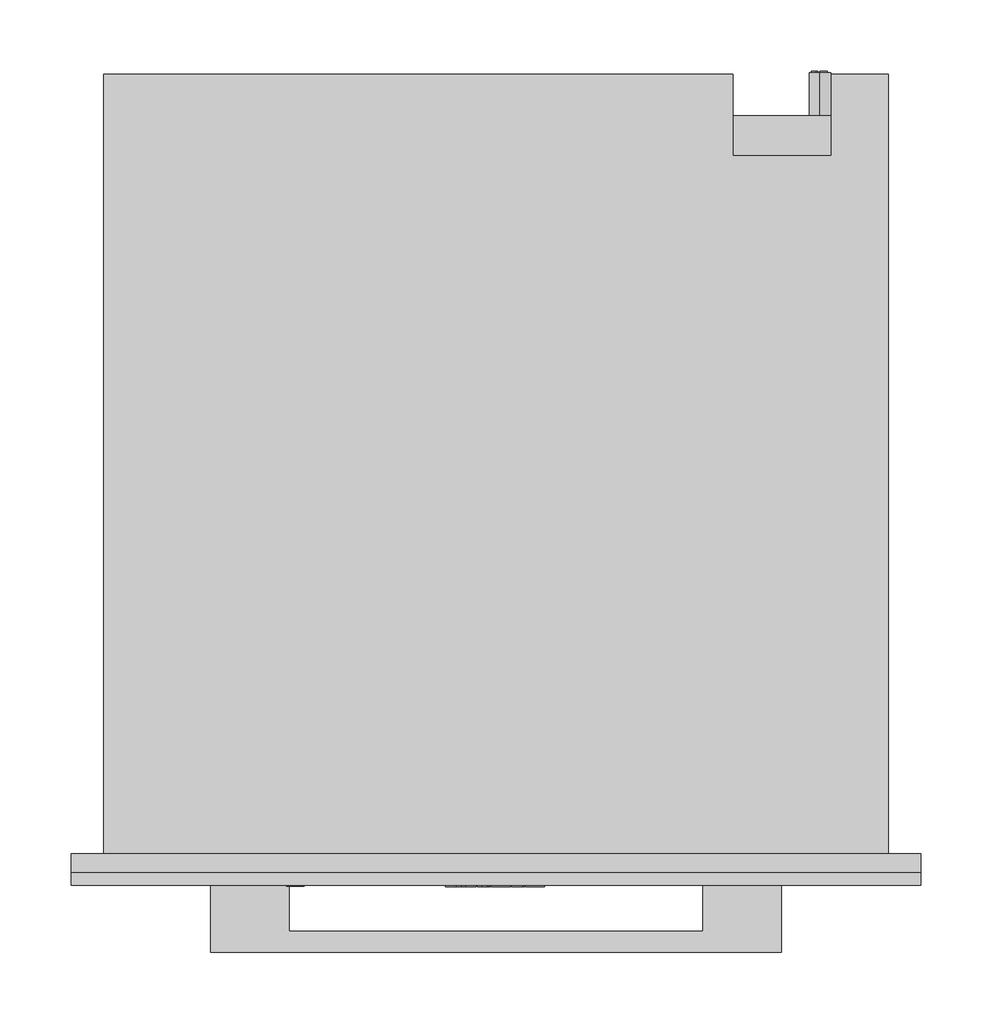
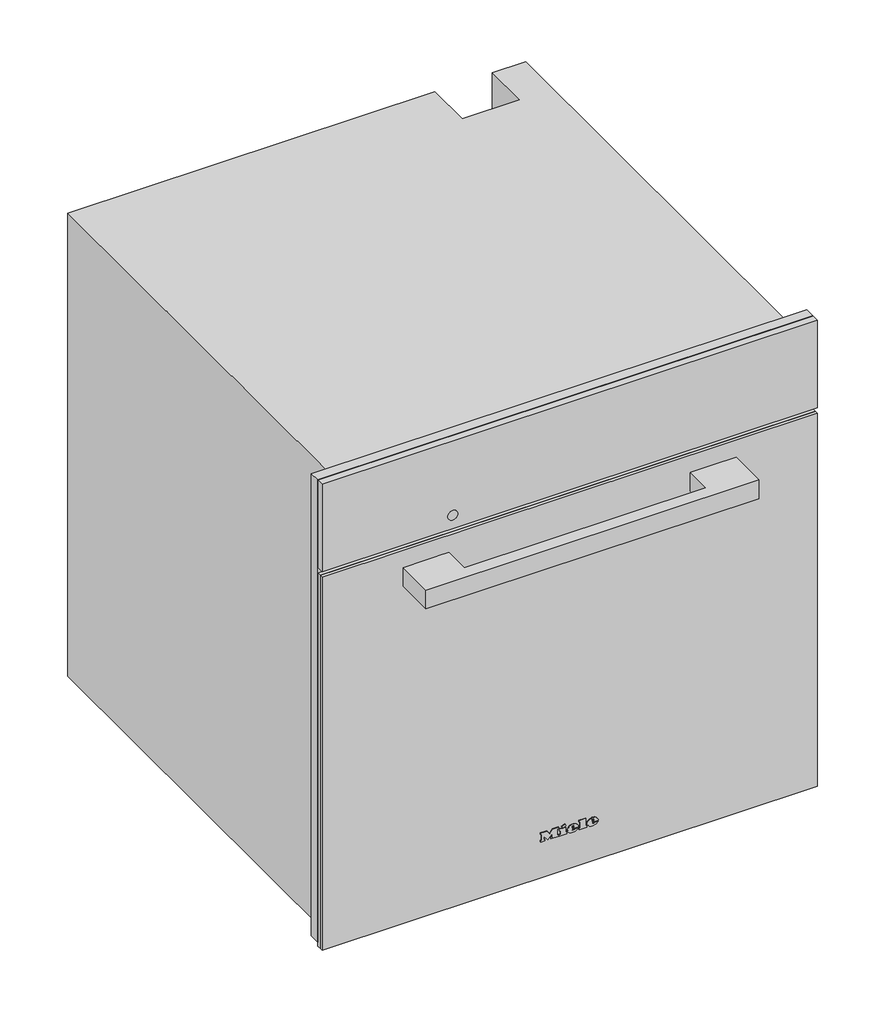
# Not in any storey: 1 proxy.
"""IFC4 building model written with IfcOpenShell, lengths in millimetres."""

from ifc_helpers import new_model, si_unit, origin, place, context, project, spatial, transform, mapped, element, save
from components import specialty_equipment_684bbd22

model = new_model("IFC4")

# Units and contexts
model_context = context("Model", 3, world=origin())
ifc_project = project(units=[si_unit("LENGTHUNIT", "METRE", prefix="MILLI")], contexts=[model_context])

# Site, building
site = spatial("IfcSite", under=ifc_project)
building = spatial("IfcBuilding", under=site)

# Proxy
placement = place(None, origin())
specialty_equipment_shape = specialty_equipment_684bbd22(model_context)
element("IfcBuildingElementProxy", 1, Name="12095260_F_DGC7860HCPro_BRWS : 23786019_F_12095260_DGC7860HCPro_BRWS", ObjectType="12095260_F_DGC7860HCPro_BRWS : 23786019_F_12095260_DGC7860HCPro_BRWS", at=placement, inside=building, context=model_context, shape_type="MappedRepresentation", body=[
    mapped(specialty_equipment_shape, transform((0.0, 0.0, 0.0), x_axis=(1.0, 0.0, 0.0), y_axis=(0.0, 1.0, 0.0), z_axis=(0.0, 0.0, 1.0))),
])

save(model, "model.ifc")
